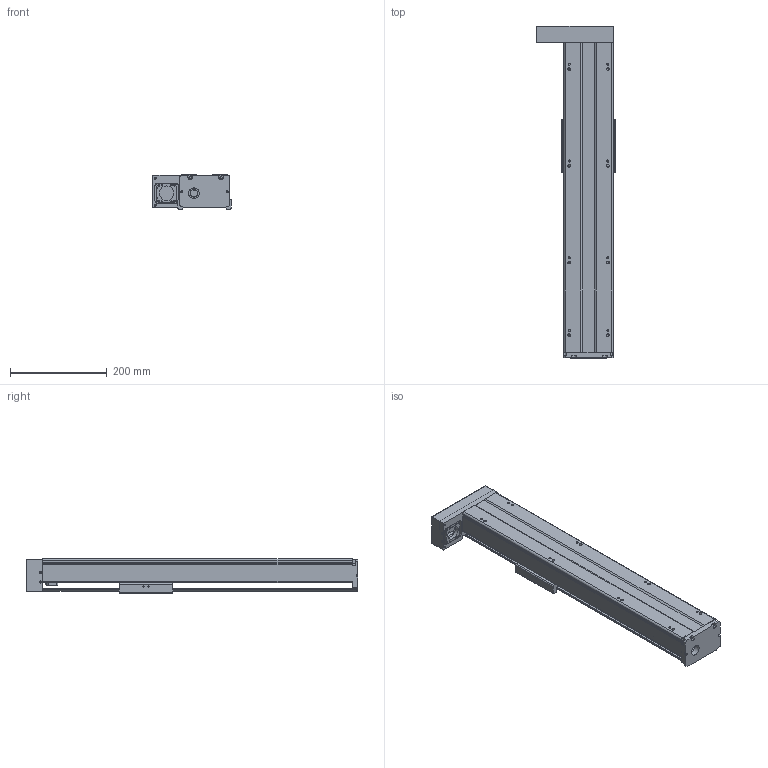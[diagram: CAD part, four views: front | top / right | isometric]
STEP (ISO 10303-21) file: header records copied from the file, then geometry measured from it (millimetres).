
FILE_DESCRIPTION(/* description */ (''),/* implementation_level */ '2;1');
FILE_NAME(/* name */ 'TKA100-FL-450_asm1.stp',/* time_stamp */ '2016-05-17T14:48:35+08:00',/* author */ (''),/* organization */ (''),/* preprocessor_version */ 'ST-DEVELOPER v15',/* originating_system */ 'SIEMENS PLM Software NX 8.5',/* authorisation */ '');
FILE_SCHEMA (('AUTOMOTIVE_DESIGN { 1 0 10303 214 3 1 1 1 }'));
Length unit declared in the file: millimetre
Products named in the file (3): 200-2; 200-1; TKA100-FL-450_asm1
Assembly tree (2 placements, depth 2):
  TKA100-FL-450_asm1
    200-1
    200-2
Bounding box: 162 x 686 x 71 mm (x, y, z)
Volume: 1578176.3 mm3; surface area: 539004.6 mm2
Topology: 2 solids, 16 shells, 784 faces, 2036 edges, 1323 vertices
Faces by surface type: plane 316, cylinder 295, cone 119, torus 28, bspline 26
Full cylindrical faces by diameter (mm): 2.5 x6, 2.6 x8, 3.3 x11, 3.4 x4, 3.8 x8, 4.2 x17, 4.3 x4, 4.5 x10, 5 x2, 5.5 x16, 6.6 x4, 8 x4, 9 x6, 10 x5, 11 x4, 12 x6, 15.3 x1, 16 x1, 22 x1, 24 x1, 28 x2, 30 x1, 33 x1
Entity records: 28903 total; most frequent: CARTESIAN_POINT 10637, DIRECTION 3739, ORIENTED_EDGE 3564, EDGE_CURVE 1782, AXIS2_PLACEMENT_3D 1469, VERTEX_POINT 1258, EDGE_LOOP 1075, LINE 801
